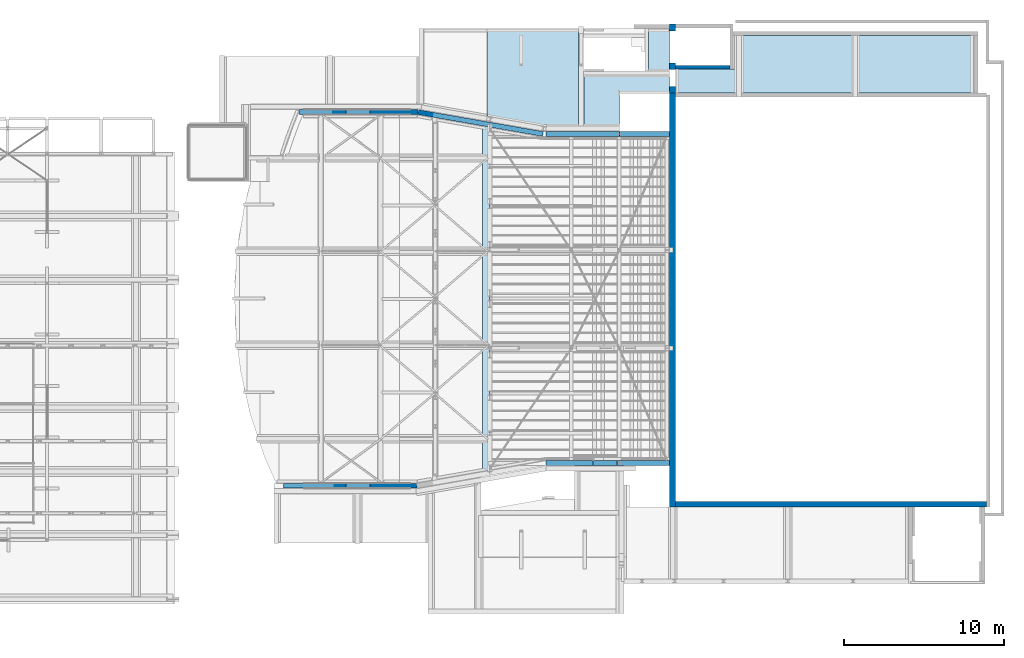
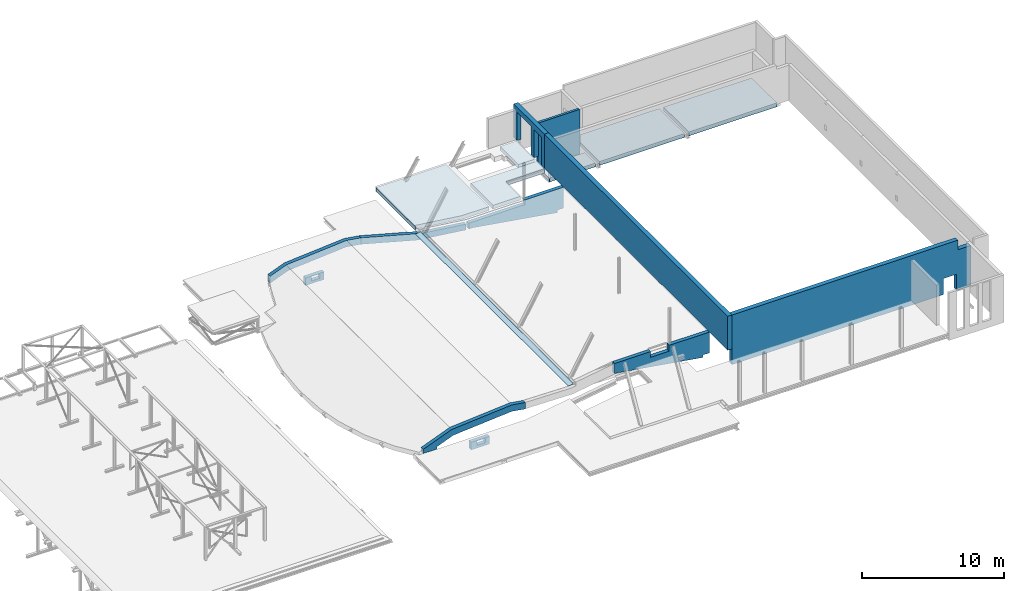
# One storey, part 42 of 50: 11 walls, 3 slabs, 23 openings.
"""IFC2X3 building model written with IfcOpenShell, lengths in millimetres."""

from ifc_helpers import new_model, entity, si_unit, converted_unit, derived_unit, direction, frame, frame_2d, origin, origin_2d_with_axis, place, context, subcontext, project, spatial, polyline, rectangle, outline, extrude, clip, halfspace, bounded_halfspace, faceted_brep, material, layer, layer_set, layer_usage, type_object, element, save


model = new_model("IFC2X3")

# Units and contexts
model_context = context("Model", 3, precision=0.01, world=origin(), true_north=direction((6.12303176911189e-17, 1.0)))
body_context = subcontext(model_context, "Body", "Model", "MODEL_VIEW")
ifc_project = project(units=[si_unit("LENGTHUNIT", "METRE", prefix="MILLI"), si_unit("AREAUNIT", "SQUARE_METRE", prefix="MILLI"), si_unit("VOLUMEUNIT", "CUBIC_METRE"), converted_unit("PLANEANGLEUNIT", "DEGREE", entity("IfcRatioMeasure", 0.0174532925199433), si_unit("PLANEANGLEUNIT", "RADIAN"), dimensions=[0, 0, 0, 0, 0, 0, 0]), si_unit("MASSUNIT", "GRAM", prefix="KILO"), derived_unit("MASSDENSITYUNIT", [(si_unit("MASSUNIT", "GRAM", prefix="KILO"), 1), (si_unit("LENGTHUNIT", "METRE"), -3)]), derived_unit("MOMENTOFINERTIAUNIT", [(si_unit("LENGTHUNIT", "METRE"), 4)]), si_unit("TIMEUNIT", "SECOND"), si_unit("FREQUENCYUNIT", "HERTZ"), si_unit("THERMODYNAMICTEMPERATUREUNIT", "DEGREE_CELSIUS"), derived_unit("THERMALTRANSMITTANCEUNIT", [(si_unit("MASSUNIT", "GRAM", prefix="KILO"), 1), (si_unit("THERMODYNAMICTEMPERATUREUNIT", "KELVIN"), -1), (si_unit("TIMEUNIT", "SECOND"), -3)]), derived_unit("VOLUMETRICFLOWRATEUNIT", [(si_unit("LENGTHUNIT", "METRE"), 3), (si_unit("TIMEUNIT", "SECOND"), -1)]), si_unit("ELECTRICCURRENTUNIT", "AMPERE"), si_unit("ELECTRICVOLTAGEUNIT", "VOLT"), si_unit("POWERUNIT", "WATT"), si_unit("FORCEUNIT", "NEWTON", prefix="KILO"), si_unit("ILLUMINANCEUNIT", "LUX"), si_unit("LUMINOUSFLUXUNIT", "LUMEN"), si_unit("LUMINOUSINTENSITYUNIT", "CANDELA"), derived_unit("USERDEFINED", [(si_unit("MASSUNIT", "GRAM", prefix="KILO"), -1), (si_unit("LENGTHUNIT", "METRE"), -2), (si_unit("TIMEUNIT", "SECOND"), 3), (si_unit("LUMINOUSFLUXUNIT", "LUMEN"), 1)]), derived_unit("LINEARVELOCITYUNIT", [(si_unit("LENGTHUNIT", "METRE"), 1), (si_unit("TIMEUNIT", "SECOND"), -1)]), si_unit("PRESSUREUNIT", "PASCAL"), derived_unit("USERDEFINED", [(si_unit("LENGTHUNIT", "METRE"), -2), (si_unit("MASSUNIT", "GRAM", prefix="KILO"), 1), (si_unit("TIMEUNIT", "SECOND"), -2)]), derived_unit("LINEARFORCEUNIT", [(si_unit("MASSUNIT", "GRAM", prefix="KILO"), 1), (si_unit("LENGTHUNIT", "METRE"), 1), (si_unit("TIMEUNIT", "SECOND"), -2), (si_unit("LENGTHUNIT", "METRE"), -1)]), derived_unit("PLANARFORCEUNIT", [(si_unit("MASSUNIT", "GRAM", prefix="KILO"), 1), (si_unit("LENGTHUNIT", "METRE"), 1), (si_unit("TIMEUNIT", "SECOND"), -2), (si_unit("LENGTHUNIT", "METRE"), -2)])], contexts=[model_context])

# Site, building, storey
site_placement = place(None, origin())
site = spatial("IfcSite", under=ifc_project, at=site_placement, Name="Theater aan de Parade", CompositionType="ELEMENT")
building_placement = place(site_placement, origin())
building = spatial("IfcBuilding", under=site, at=building_placement, Name="Theater aan de Parade", CompositionType="ELEMENT")
storey_placement = place(building_placement, frame((0.0, 0.0, 15820.0)))
storey = spatial("IfcBuildingStorey", under=building, at=storey_placement, Name="04 vierde verdieping", CompositionType="ELEMENT", Elevation=15820.0)

# Slab, openings
ifc_material_1 = material(Name="00_PBT_MAT_systeemvloer")
ifc_layer_1 = layer(ifc_material_1, 320.0)
ifc_layer_set_1 = layer_set([ifc_layer_1], Name="Floor:28_PBT_FL_kanaalplaat_d=320")
ifc_layer_usage_1 = layer_usage(ifc_layer_set_1, "AXIS3", "POSITIVE", 0.0)
slab_type_1 = type_object("IfcSlabType", Name="Floor:28_PBT_FL_kanaalplaat_d=320", PredefinedType="FLOOR", material=ifc_layer_set_1)
slab_1_placement = place(storey_placement, frame((67756.256100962, 45260.0, 225.0)))
slab_1 = element("IfcSlab", 1, at=slab_1_placement, inside=storey, type_object=slab_type_1, material=ifc_layer_usage_1, Name="Floor:28_PBT_FL_kanaalplaat_d=320", ObjectType="Floor:28_PBT_FL_kanaalplaat_d=320", PredefinedType="FLOOR", context=body_context, shape_type="SweptSolid", body=[
    extrude(outline(polyline([(-9249.37194951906, -1781.0), (9249.37194951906, -1781.0), (9249.37194951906, -279.127659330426), (5324.21892905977, -279.127659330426), (5324.21892905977, 1781.0), (-9249.37194951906, 1781.0), (-9249.37194951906, -1781.0)])), frame((9249.37194951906, 1781.0, 320.0), z_axis=(0.0, 0.0, -1.0), x_axis=(-1.0, 0.0, 0.0)), (0.0, 0.0, 1.0), 320.000000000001),
])
opening_1_placement = place(slab_1_placement, origin())
element("IfcOpeningElement", 2, at=opening_1_placement, cuts=slab_1, ObjectType="Opening", context=body_context, shape_type="SweptSolid", body=[
    extrude(rectangle(XDim=4061.99999999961, YDim=339.999999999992, at=origin_2d_with_axis()), frame((11163.743899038, 1781.0, -5.0), z_axis=(0.0, 0.0, 1.0), x_axis=(0.0, 1.0, 0.0)), (0.0, 0.0, 1.0), 325.0),
])
opening_2_placement = place(slab_1_placement, origin())
element("IfcOpeningElement", 3, at=opening_2_placement, cuts=slab_1, ObjectType="Opening", context=body_context, shape_type="SweptSolid", body=[
    extrude(rectangle(XDim=339.999999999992, YDim=4061.9999999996, at=origin_2d_with_axis()), frame((3925.15302045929, 1781.0, -5.0)), (0.0, 0.0, 1.0), 325.0),
])

ifc_layer_usage_2 = layer_usage(ifc_layer_set_1, "AXIS3", "POSITIVE", 0.0)
slab_type_2 = type_object("IfcSlabType", Name="Floor:28_PBT_FL_kanaalplaat_d=320", PredefinedType="FLOOR", material=ifc_layer_set_1)
slab_2_placement = place(storey_placement, frame((55957.6822339, 43205.0, 1170.0)))
slab_2 = element("IfcSlab", 4, at=slab_2_placement, inside=storey, type_object=slab_type_2, material=ifc_layer_usage_2, Name="Floor:28_PBT_FL_kanaalplaat_d=320", ObjectType="Floor:28_PBT_FL_kanaalplaat_d=320", PredefinedType="FLOOR", context=body_context, shape_type="SweptSolid", body=[
    extrude(outline(polyline([(-216.913088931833, 3008.28224240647), (-216.913088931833, 283.580874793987), (-4256.91308496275, 283.580874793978), (-4256.91308496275, 3008.28224240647), (-5699.28693353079, 3008.28224240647), (-5699.28693353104, -973.599117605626), (-2559.08686895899, -973.599117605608), (-2559.08686895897, -3178.28224240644), (2202.42875541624, -3178.28224240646), (5699.28693353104, -2566.33206123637), (5699.28693353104, 3008.28224240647), (-216.913088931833, 3008.28224240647)])), frame((5699.28693353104, 3008.28224240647, 320.0), z_axis=(0.0, 0.0, -1.0), x_axis=(-1.0, 0.0, 0.0)), (0.0, 0.0, 1.0), 320.000000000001),
])
opening_3_placement = place(slab_2_placement, origin())
element("IfcOpeningElement", 5, at=opening_3_placement, cuts=slab_2, ObjectType="Opening", context=body_context, shape_type="SweptSolid", body=[
    extrude(rectangle(XDim=6201.99799087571, YDim=340.000000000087, at=origin_2d_with_axis()), frame((5876.2000224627, 3080.99899543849, 0.0), z_axis=(0.0, 0.0, 1.0), x_axis=(0.0, 1.0, 0.0)), (0.0, 0.0, 1.0), 320.000000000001),
])
opening_4_placement = place(slab_2_placement, origin())
element("IfcOpeningElement", 6, at=opening_4_placement, cuts=slab_2, ObjectType="Opening", context=body_context, shape_type="SweptSolid", body=[
    extrude(rectangle(XDim=260.000000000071, YDim=2635.13487367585, at=origin_2d_with_axis()), frame((9956.20001849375, 4739.43055403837, 0.0)), (0.0, 0.0, 1.0), 320.000000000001),
])
opening_5_placement = place(slab_2_placement, frame((6026.2000224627, 3036.86311720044, -5.0)))
element("IfcOpeningElement", 7, at=opening_5_placement, cuts=slab_2, ObjectType="Opening", context=body_context, shape_type="Brep", body=[
    faceted_brep([(100.0, 0.0, 2.0), (100.0, 105.0, 2.0), (0.0, 105.0, 2.0), (0.0, 0.0, 2.0), (0.0, 0.0, 1.0), (0.0, 105.0, 1.0), (100.0, 0.0, 1.0), (100.0, 105.0, 1.0), (4872.37384459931, 405.0, 2.0), (5372.37384459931, 405.0, 2.0), (5372.37384459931, 510.0, 2.0), (4872.37384459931, 510.0, 2.0), (4872.37384459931, 510.0, 1.0), (5372.37384459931, 510.0, 1.0), (4872.37384459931, 405.0, 1.0), (5372.37384459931, 405.0, 1.0), (4972.3738445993, 0.0, 2.0), (5372.37384459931, 0.0, 2.0), (4972.3738445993, 105.0, 2.0), (5372.37384459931, 105.0, 2.0), (4972.3738445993, 105.0, 1.0), (5372.37384459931, 105.0, 1.0), (5372.37384459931, 0.0, 1.0), (4972.3738445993, 0.0, 1.0), (5372.37384459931, 105.0, 0.0), (5372.37384459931, 405.0, 0.0), (5372.37384459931, 405.0, 325.0), (5372.37384459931, 105.0, 325.0), (0.0, 405.0, 0.0), (0.0, 105.0, 0.0), (0.0, 405.0, 325.0), (0.0, 105.0, 325.0)], [[[0, 1, 2]], [[2, 3, 0]], [[4, 5, 6]], [[7, 6, 5]], [[0, 3, 4]], [[4, 6, 0]], [[1, 0, 6]], [[6, 7, 1]], [[8, 9, 10]], [[10, 11, 8]], [[12, 13, 14]], [[15, 14, 13]], [[11, 10, 13]], [[13, 12, 11]], [[8, 11, 12]], [[12, 14, 8]], [[16, 17, 18]], [[19, 18, 17]], [[20, 21, 22]], [[22, 23, 20]], [[16, 18, 20]], [[20, 23, 16]], [[17, 16, 23]], [[23, 22, 17]], [[17, 22, 21]], [[15, 21, 24]], [[24, 25, 15]], [[10, 15, 13]], [[15, 9, 21]], [[26, 27, 19]], [[21, 9, 19]], [[9, 15, 10]], [[19, 9, 26]], [[19, 17, 21]], [[28, 5, 2]], [[5, 28, 29]], [[4, 3, 5]], [[2, 30, 28]], [[30, 2, 31]], [[3, 2, 5]], [[15, 25, 14]], [[26, 9, 8]], [[14, 28, 8]], [[28, 14, 25]], [[8, 30, 26]], [[30, 8, 28]], [[27, 26, 31]], [[30, 31, 26]], [[27, 18, 19]], [[18, 27, 31]], [[24, 21, 20]], [[24, 20, 29]], [[18, 7, 20]], [[1, 31, 2]], [[31, 1, 18]], [[7, 5, 29]], [[7, 29, 20]], [[1, 7, 18]], [[25, 24, 28]], [[29, 28, 24]]]),
])
opening_6_placement = place(slab_2_placement, origin())
element("IfcOpeningElement", 8, at=opening_6_placement, cuts=slab_2, ObjectType="Opening", context=body_context, shape_type="SweptSolid", body=[
    extrude(rectangle(XDim=340.000000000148, YDim=4851.66434997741, at=origin_2d_with_axis()), frame((5832.54162750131, -170.0, -5.0), z_axis=(0.0, 0.0, 1.0), x_axis=(0.0, 1.0, 0.0)), (0.0, 0.0, 1.0), 325.0),
])
opening_7_placement = place(slab_2_placement, origin())
element("IfcOpeningElement", 9, at=opening_7_placement, cuts=slab_2, ObjectType="Opening", context=body_context, shape_type="SweptSolid", body=[
    extrude(rectangle(XDim=340.000000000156, YDim=8227.18093451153, at=origin_2d_with_axis()), frame((-360.93707934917, 510.190155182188, -1160.0), z_axis=(0.0, 0.0, 1.0), x_axis=(0.172380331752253, 0.985030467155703, 0.0)), (0.0, 0.0, 1.0), 325.0),
])
opening_8_placement = place(slab_2_placement, origin())
element("IfcOpeningElement", 10, at=opening_8_placement, cuts=slab_2, ObjectType="Opening", context=body_context, shape_type="SweptSolid", body=[
    extrude(rectangle(XDim=340.000000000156, YDim=3747.16821801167, at=origin_2d_with_axis()), frame((1845.53743014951, 124.057116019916, -5.0), z_axis=(0.0, 0.0, 1.0), x_axis=(0.172380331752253, 0.985030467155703, 0.0)), (0.0, 0.0, 1.0), 325.0),
])

# Slab
ifc_material_2 = material(Name="00_PBT_MAT_beton t.p.g._C30/37")
slab_type_3 = type_object("IfcSlabType", Name="Floor:28_PBT_FL_druklaag_d=80_C30/37", PredefinedType="FLOOR")
slab_3_placement = place(storey_placement, origin())
element("IfcSlab", 11, at=slab_3_placement, inside=storey, type_object=slab_type_3, material=ifc_material_2, Name="Floor:28_PBT_FL_druklaag_d=80_C30/37", ObjectType="Floor:28_PBT_FL_druklaag_d=80_C30/37", PredefinedType="FLOOR", context=body_context, shape_type="Brep", body=[
    faceted_brep([(55684.013511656, 43207.54763546, 1171.61844253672), (56143.3747485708, 43207.54763546, 1171.61844253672), (56143.3747485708, 43127.1594189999, 1171.61844253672), (55684.013511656, 21647.4523645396, 1251.61844253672), (56143.3747485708, 21727.8405809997, 1251.61844253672), (56143.3747485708, 43207.54763546, 1251.61844253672), (55684.013511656, 43207.54763546, 1251.61844253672), (56136.3747485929, 21726.6155810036, 1179.97143420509), (56143.3747485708, 21727.8405809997, 1178.86274270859), (56143.3747485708, 43127.1594189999, 1178.8627427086), (56136.3747485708, 43128.3844189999, 1179.97143420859)], [[[0, 1, 2]], [[3, 4, 5, 6]], [[4, 3, 7, 8]], [[1, 0, 6, 5]], [[5, 4, 8, 9, 2, 1]], [[6, 10, 9, 8, 7, 3]], [[9, 10, 6, 0, 2]]]),
])

# Wall, openings
ifc_layer_2 = layer(ifc_material_2, 300.0)
ifc_layer_set_2 = layer_set([ifc_layer_2], Name="Basic Wall:28_PBT_WA_beton t.p.g._d=300_C30/37")
ifc_layer_usage_3 = layer_usage(ifc_layer_set_2, "AXIS2", "POSITIVE", -150.0)
wall_type_1 = type_object("IfcWallType", Name="Basic Wall:28_PBT_WA_beton t.p.g._d=300_C30/37", PredefinedType="STANDARD", material=ifc_layer_set_2)
wall_1_placement = place(storey_placement, frame((59654.454593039, 22190.0, -430.06302884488)))
wall_1 = element("IfcWallStandardCase", 12, at=wall_1_placement, inside=storey, type_object=wall_type_1, material=ifc_layer_usage_3, Name="Basic Wall:28_PBT_WA_beton t.p.g._d=300_C30/37", ObjectType="Basic Wall:28_PBT_WA_beton t.p.g._d=300_C30/37", context=body_context, shape_type="Clipping", body=[
    clip(clip(clip(clip(extrude(rectangle(XDim=7701.80150792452, YDim=300.000000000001, at=frame_2d((3850.90075396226, 0.0), x_axis=(-1.0, 0.0))), origin(), (0.0, 0.0, 1.0), 2000.06302884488), bounded_halfspace(frame((7201.80150792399, 150.0, 215.06302884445), z_axis=(-1.0, 0.0, 0.0), x_axis=(0.0, -1.0, 0.0)), True, frame((7201.80150792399, 150.0, 215.06302884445), z_axis=(-1.0, 0.0, 0.0), x_axis=(0.0, -1.0, 0.0)), polyline([(0.0, 0.0), (0.0, -215.06302884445), (300.0, -215.06302884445), (300.0, 0.0), (0.0, 0.0)]))), bounded_halfspace(frame((7201.80150792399, -150.0, 215.06302884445), z_axis=(0.0, 0.0, 1.0), x_axis=(0.0, -1.0, 0.0)), True, frame((7201.80150792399, -150.0, 215.06302884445), z_axis=(0.0, 0.0, 1.0), x_axis=(0.0, -1.0, 0.0)), polyline([(0.0, 0.0), (0.0, 500.0), (-300.0, 500.0), (-300.0, 0.0), (0.0, 0.0)]))), bounded_halfspace(frame((13.0260216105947, -150.0, 1124.62641733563), z_axis=(0.156434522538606, 0.0, 0.987688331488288), x_axis=(0.987688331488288, 0.0, -0.156434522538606)), True, frame((13.0260216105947, -150.0, 1124.62641733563), z_axis=(0.156434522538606, 0.0, 0.987688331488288), x_axis=(0.987688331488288, 0.0, -0.156434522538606)), polyline([(0.0, 0.0), (139.145076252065, 0.0), (139.145076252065, 300.0), (-13.1883927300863, 300.0), (-13.188392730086, 0.0), (0.0, 0.0)]))), halfspace(frame((0.0, 0.0, 1102.85932376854), z_axis=(-0.151780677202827, 0.0, -0.988414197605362), x_axis=(0.0, 1.0, 0.0)), False)),
])
opening_9_placement = place(wall_1_placement, origin())
element("IfcOpeningElement", 13, at=opening_9_placement, cuts=wall_1, Name="Basic Wall:28_PBT_WA_beton t.p.g._d=300_C30/37", ObjectType="Opening", context=body_context, shape_type="SweptSolid", body=[
    extrude(rectangle(XDim=497.027708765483, YDim=1490.0, at=frame_2d((-4.32009983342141e-12, 0.0), x_axis=(0.0, 1.0))), frame((3676.60144336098, 150.0, 1751.54917446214), z_axis=(0.0, -1.0, 0.0), x_axis=(-1.0, 0.0, 0.0)), (0.0, 0.0, 1.0), 300.0),
])
opening_10_placement = place(wall_1_placement, origin())
element("IfcOpeningElement", 14, at=opening_10_placement, cuts=wall_1, Name="Basic Wall:28_PBT_WA_beton t.p.g._d=300_C30/37", ObjectType="Opening", context=body_context, shape_type="SweptSolid", body=[
    extrude(outline(polyline([(-2694.24185969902, -14.8772095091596), (5097.83713570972, -14.8772095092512), (-2403.5952760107, 29.7544190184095), (-2694.24185969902, -14.8772095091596)])), frame((2665.28497884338, 150.0, 708.630314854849), z_axis=(0.0, -1.0, 0.0), x_axis=(0.988414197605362, 0.0, -0.151780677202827)), (0.0, 0.0, 1.0), 300.0),
])

# Wall, opening
ifc_layer_usage_4 = layer_usage(ifc_layer_set_2, "AXIS2", "NEGATIVE", 150.0)
wall_2_placement = place(storey_placement, frame((59654.454593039, 42700.0, -440.149943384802)))
wall_2 = element("IfcWallStandardCase", 15, at=wall_2_placement, inside=storey, type_object=wall_type_1, material=ifc_layer_usage_4, Name="Basic Wall:28_PBT_WA_beton t.p.g._d=300_C30/37", ObjectType="Basic Wall:28_PBT_WA_beton t.p.g._d=300_C30/37", context=body_context, shape_type="Clipping", body=[
    clip(clip(clip(clip(clip(extrude(rectangle(XDim=7701.80150792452, YDim=300.000000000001, at=frame_2d((3850.90075396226, 0.0), x_axis=(-1.0, 0.0))), origin(), (0.0, 0.0, 1.0), 2010.16795465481), bounded_halfspace(frame((4561.601443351, -150.0, 1610.1499433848), z_axis=(0.0, 0.0, -1.0), x_axis=(0.0, -1.0, 0.0)), True, frame((4561.601443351, -150.0, 1610.1499433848), z_axis=(0.0, 0.0, -1.0), x_axis=(0.0, -1.0, 0.0)), polyline([(0.0, 0.0), (0.0, 4561.60144335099), (-300.0, 4561.60144335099), (-300.0, 0.0), (0.0, 0.0)]))), bounded_halfspace(frame((4561.60144335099, 150.0, 1610.1499433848), z_axis=(1.0, 0.0, 0.0), x_axis=(0.0, 0.0, 1.0)), True, frame((4561.60144335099, 150.0, 1610.1499433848), z_axis=(1.0, 0.0, 0.0), x_axis=(0.0, 0.0, 1.0)), polyline([(0.0, 0.0), (400.01801127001, 0.0), (400.01801127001, 300.0), (0.0, 300.0), (0.0, 0.0)]))), bounded_halfspace(frame((7201.80150792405, 150.0, 225.149943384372), z_axis=(-1.0, 0.0, 0.0), x_axis=(0.0, -1.0, 0.0)), True, frame((7201.80150792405, 150.0, 225.149943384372), z_axis=(-1.0, 0.0, 0.0), x_axis=(0.0, -1.0, 0.0)), polyline([(0.0, 0.0), (0.0, -225.149943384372), (300.0, -225.14994338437), (300.0, 0.0), (0.0, 0.0)]))), bounded_halfspace(frame((7201.80150792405, -150.0, 225.149943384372), z_axis=(0.0, 0.0, 1.0), x_axis=(0.0, -1.0, 0.0)), True, frame((7201.80150792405, -150.0, 225.149943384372), z_axis=(0.0, 0.0, 1.0), x_axis=(0.0, -1.0, 0.0)), polyline([(0.0, 0.0), (0.0, 500.0), (-300.0, 500.0), (-300.0, 0.0), (0.0, 0.0)]))), halfspace(frame((0.0, 0.0, 1110.1499433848), z_axis=(-0.15278138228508, 0.0, -0.988260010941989), x_axis=(0.0, 1.0, 0.0)), False)),
])
opening_11_placement = place(wall_2_placement, origin())
element("IfcOpeningElement", 16, at=opening_11_placement, cuts=wall_2, Name="Basic Wall:28_PBT_WA_beton t.p.g._d=300_C30/37", ObjectType="Opening", context=body_context, shape_type="SweptSolid", body=[
    extrude(outline(polyline([(-2699.29434086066, -15.6960799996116), (5094.00036159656, -15.6960799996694), (-2394.70602073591, 31.3921599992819), (-2699.29434086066, -15.6960799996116)])), frame((2670.00272363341, 150.0, 713.259830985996), z_axis=(0.0, -1.0, 0.0), x_axis=(0.988260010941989, 0.0, -0.15278138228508)), (0.0, 0.0, 1.0), 300.0),
])

ifc_layer_usage_5 = layer_usage(ifc_layer_set_2, "AXIS2", "NEGATIVE", 150.0)
wall_3_placement = place(storey_placement, frame((44302.6878974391, 44060.0, 569.447157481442)))
wall_3 = element("IfcWallStandardCase", 17, at=wall_3_placement, inside=storey, type_object=wall_type_1, material=ifc_layer_usage_5, Name="Basic Wall:28_PBT_WA_beton t.p.g._d=300_C30/37", ObjectType="Basic Wall:28_PBT_WA_beton t.p.g._d=300_C30/37", context=body_context, shape_type="Clipping", body=[
    clip(clip(clip(clip(extrude(rectangle(XDim=7380.33812417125, YDim=300.000000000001, at=frame_2d((3690.16906208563, -1.13686837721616e-13), x_axis=(-1.0, 0.0))), origin(), (0.0, 0.0, 1.0), 1502.04571579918), halfspace(frame((1341.06430546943, -150.0, 1113.18313392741), z_axis=(-0.079704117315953, 0.0, 0.996818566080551), x_axis=(0.0, 1.0, 0.0)), False)), halfspace(frame((6204.36941839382, -150.0, 1502.04571579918), z_axis=(0.15643452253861, 0.0, 0.987688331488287), x_axis=(0.0, 1.0, 0.0)), False)), halfspace(frame((0.0, -150.0, 590.324288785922), z_axis=(-0.363251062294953, 0.0, 0.931691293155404), x_axis=(0.0, 1.0, 0.0)), False)), halfspace(frame((7380.33812417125, 0.0, 758.934676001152), z_axis=(0.10229254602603, 0.0, -0.994754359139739), x_axis=(0.0, -1.0, 0.0)), False)),
])
opening_12_placement = place(wall_3_placement, origin())
element("IfcOpeningElement", 18, at=opening_12_placement, cuts=wall_3, Name="Basic Wall:28_PBT_WA_beton t.p.g._d=300_C30/37", ObjectType="Opening", context=body_context, shape_type="SweptSolid", body=[
    extrude(outline(polyline([(-3548.92752798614, -753.66528404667), (-2336.63383816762, -753.66528404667), (2263.73863013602, 356.865257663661), (3621.82273601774, 1150.46531042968), (-3548.92752798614, -753.66528404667)])), frame((3757.204546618, 150.0, 569.723052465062), z_axis=(0.0, -1.0, 0.0), x_axis=(-0.987688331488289, 0.0, 0.156434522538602)), (0.0, 0.0, 1.0), 300.0),
])

ifc_layer_usage_6 = layer_usage(ifc_layer_set_2, "AXIS2", "NEGATIVE", 150.0)
wall_4_placement = place(storey_placement, frame((51683.0260216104, 44060.0, 670.0), z_axis=(0.0, 0.0, 1.0), x_axis=(0.985030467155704, -0.17238033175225, 0.0)))
wall_4 = element("IfcWallStandardCase", 19, at=wall_4_placement, inside=storey, type_object=wall_type_1, material=ifc_layer_usage_6, Name="Basic Wall:28_PBT_WA_beton t.p.g._d=300_C30/37", ObjectType="Basic Wall:28_PBT_WA_beton t.p.g._d=300_C30/37", context=body_context, shape_type="Clipping", body=[
    clip(clip(clip(extrude(rectangle(XDim=7889.53116736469, YDim=300.0, at=frame_2d((3944.76558368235, -6.25277607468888e-13), x_axis=(-1.0, 0.0))), origin(), (0.0, 0.0, 1.0), 1215.28004439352), halfspace(frame((7889.5311673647, -150.0, 0.0), z_axis=(0.0, 0.0, -1.0), x_axis=(0.0, 1.0, 0.0)), False)), halfspace(frame((4257.05028814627, -150.0, 0.0), z_axis=(-0.15414877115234, 0.0, -0.988047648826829), x_axis=(0.0, 1.0, 0.0)), False)), halfspace(frame((7889.5311673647, 0.0, 500.0), z_axis=(0.0902915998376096, 0.0, 0.995915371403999), x_axis=(0.0, 1.0, 0.0)), False)),
])
opening_13_placement = place(wall_4_placement, origin())
element("IfcOpeningElement", 20, at=opening_13_placement, cuts=wall_4, Name="Basic Wall:28_PBT_WA_beton t.p.g._d=300_C30/37", ObjectType="Opening", context=body_context, shape_type="SweptSolid", body=[
    extrude(outline(polyline([(-3737.72989211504, -99.4652086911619), (4184.1592501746, -99.4652086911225), (-446.429358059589, 198.930417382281), (-3737.72989211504, -99.4652086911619)])), frame((4158.08764083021, 150.0, 738.426681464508), z_axis=(0.0, -1.0, 0.0), x_axis=(-0.995915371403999, 0.0, 0.0902915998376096)), (0.0, 0.0, 1.0), 300.0),
])

ifc_layer_usage_7 = layer_usage(ifc_layer_set_2, "AXIS2", "POSITIVE", -150.0)
wall_5_placement = place(storey_placement, frame((43301.7932330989, 20780.0, 415.0)))
wall_5 = element("IfcWallStandardCase", 21, at=wall_5_placement, inside=storey, type_object=wall_type_1, material=ifc_layer_usage_7, Name="Basic Wall:28_PBT_WA_beton t.p.g._d=300_C30/37", ObjectType="Basic Wall:28_PBT_WA_beton t.p.g._d=300_C30/37", context=body_context, shape_type="Clipping", body=[
    clip(clip(clip(clip(extrude(rectangle(XDim=8295.51850279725, YDim=300.000000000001, at=frame_2d((4147.75925139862, -7.105427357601e-14), x_axis=(-1.0, 0.0))), origin(), (0.0, 0.0, 1.0), 1656.56806113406), halfspace(frame((7205.26408273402, -150.0, 1656.56806113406), z_axis=(0.156434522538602, 0.0, 0.987688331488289), x_axis=(0.0, 1.0, 0.0)), False)), halfspace(frame((2315.58886652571, -150.0, 1257.4242110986), z_axis=(-0.0813593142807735, 0.0, 0.996684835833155), x_axis=(0.0, 1.0, 0.0)), False)), halfspace(frame((0.0, -150.0, 354.614319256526), z_axis=(-0.363251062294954, 0.0, 0.931691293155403), x_axis=(0.0, 1.0, 0.0)), False)), halfspace(frame((1026.20898657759, -150.0, 0.0), z_axis=(0.0, 0.0, -1.0), x_axis=(0.0, 1.0, 0.0)), False)),
])
opening_14_placement = place(wall_5_placement, origin())
element("IfcOpeningElement", 22, at=opening_14_placement, cuts=wall_5, Name="Basic Wall:28_PBT_WA_beton t.p.g._d=300_C30/37", ObjectType="Opening", context=body_context, shape_type="SweptSolid", body=[
    extrude(outline(polyline([(-3618.62667953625, -491.493925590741), (3551.10320498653, -491.493925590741), (3551.10320498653, 435.539038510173), (2439.44623973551, 611.608271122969), (-2304.39929063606, 224.118057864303), (-3618.62667953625, -288.277516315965), (-3618.62667953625, -491.493925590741)])), frame((4744.41529781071, 150.0, 491.493925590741), z_axis=(0.0, -1.0, 0.0), x_axis=(1.0, 0.0, 0.0)), (0.0, 0.0, 1.0), 300.0),
])

ifc_layer_usage_8 = layer_usage(ifc_layer_set_2, "AXIS2", "NEGATIVE", 150.0)
wall_6_placement = place(storey_placement, frame((47184.689452, 44060.0, -640.0)))
wall_6 = element("IfcWallStandardCase", 23, at=wall_6_placement, inside=storey, type_object=wall_type_1, material=ifc_layer_usage_8, Name="Basic Wall:28_PBT_WA_beton t.p.g._d=300_C30/37", ObjectType="Basic Wall:28_PBT_WA_beton t.p.g._d=300_C30/37", context=body_context, shape_type="SweptSolid", body=[
    extrude(rectangle(XDim=1499.99999999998, YDim=300.000000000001, at=frame_2d((749.99999999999, 0.0), x_axis=(-1.0, 0.0))), origin(), (0.0, 0.0, 1.0), 655.000000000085),
])
opening_15_placement = place(wall_6_placement, origin())
element("IfcOpeningElement", 24, at=opening_15_placement, cuts=wall_6, Name="Basic Wall:28_PBT_WA_beton t.p.g._d=300_C30/37", ObjectType="Opening", context=body_context, shape_type="SweptSolid", body=[
    extrude(rectangle(XDim=380.0, YDim=680.000000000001, at=origin_2d_with_axis()), frame((826.024469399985, 150.0, 415.0), z_axis=(0.0, 1.0, 0.0), x_axis=(0.0, 0.0, -1.0)), (0.0, 0.0, -1.0), 300.0),
])

ifc_layer_usage_9 = layer_usage(ifc_layer_set_2, "AXIS2", "NEGATIVE", 150.0)
wall_7_placement = place(storey_placement, frame((47184.689452, 20780.0, -640.0)))
wall_7 = element("IfcWallStandardCase", 25, at=wall_7_placement, inside=storey, type_object=wall_type_1, material=ifc_layer_usage_9, Name="Basic Wall:28_PBT_WA_beton t.p.g._d=300_C30/37", ObjectType="Basic Wall:28_PBT_WA_beton t.p.g._d=300_C30/37", context=body_context, shape_type="SweptSolid", body=[
    extrude(rectangle(XDim=1499.99999999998, YDim=300.000000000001, at=frame_2d((749.99999999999, 0.0), x_axis=(-1.0, 0.0))), origin(), (0.0, 0.0, 1.0), 655.000000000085),
])
opening_16_placement = place(wall_7_placement, origin())
element("IfcOpeningElement", 26, at=opening_16_placement, cuts=wall_7, Name="Basic Wall:28_PBT_WA_beton t.p.g._d=300_C30/37", ObjectType="Opening", context=body_context, shape_type="SweptSolid", body=[
    extrude(rectangle(XDim=380.0, YDim=680.000000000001, at=origin_2d_with_axis()), frame((826.024469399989, 150.0, 415.0), z_axis=(0.0, -1.0, 0.0), x_axis=(0.0, 0.0, -1.0)), (0.0, 0.0, 1.0), 300.0),
])

# Wall
ifc_layer_3 = layer(ifc_material_2, 200.0)
ifc_layer_set_3 = layer_set([ifc_layer_3], Name="Basic Wall:28_PBT_WA_beton t.p.g._d=200_C30/37")
ifc_layer_usage_10 = layer_usage(ifc_layer_set_3, "AXIS2", "POSITIVE", -100.0)
wall_type_2 = type_object("IfcWallType", Name="Basic Wall:28_PBT_WA_beton t.p.g._d=200_C30/37", PredefinedType="STANDARD", material=ifc_layer_set_3)
wall_8_placement = place(storey_placement, frame((71107.0, 46861.8723406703, 535.0), z_axis=(0.0, 0.0, 1.0), x_axis=(-1.0, 0.0, 0.0)))
element("IfcWallStandardCase", 27, at=wall_8_placement, inside=storey, type_object=wall_type_2, material=ifc_layer_usage_10, Name="Basic Wall:28_PBT_WA_beton t.p.g._d=200_C30/37", ObjectType="Basic Wall:28_PBT_WA_beton t.p.g._d=200_C30/37", context=body_context, shape_type="SweptSolid", body=[
    extrude(rectangle(XDim=3400.74389903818, YDim=200.000000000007, at=frame_2d((1700.37194951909, -1.61293201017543e-12), x_axis=(-1.0, 0.0))), origin(), (0.0, 0.0, 1.0), 3854.99999999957),
])

# Wall, openings
ifc_layer_4 = layer(ifc_material_2, 350.0)
ifc_layer_set_4 = layer_set([ifc_layer_4], Name="Basic Wall:28_PBT_WA_beton t.p.g._d=350_C30/37")
ifc_layer_usage_11 = layer_usage(ifc_layer_set_4, "AXIS2", "NEGATIVE", 175.0)
wall_type_3 = type_object("IfcWallType", Name="Basic Wall:28_PBT_WA_beton t.p.g._d=350_C30/37", PredefinedType="STANDARD", material=ifc_layer_set_4)
wall_9_placement = place(storey_placement, frame((67531.2561009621, 45260.0, 1570.0), z_axis=(0.0, 0.0, 1.0), x_axis=(0.0, 1.0, 0.0)))
wall_9 = element("IfcWallStandardCase", 28, at=wall_9_placement, inside=storey, type_object=wall_type_3, material=ifc_layer_usage_11, Name="Basic Wall:28_PBT_WA_beton t.p.g._d=350_C30/37", ObjectType="Basic Wall:28_PBT_WA_beton t.p.g._d=350_C30/37", context=body_context, shape_type="SweptSolid", body=[
    extrude(rectangle(XDim=4301.99999999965, YDim=350.000000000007, at=frame_2d((2150.99999999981, 2.72848410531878e-12), x_axis=(-1.0, 0.0))), origin(), (0.0, 0.0, 1.0), 2909.99999999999),
])
opening_17_placement = place(wall_9_placement, origin())
element("IfcOpeningElement", 29, at=opening_17_placement, cuts=wall_9, Name="Basic Wall:28_PBT_WA_beton t.p.g._d=350_C30/37", ObjectType="Opening", context=body_context, shape_type="SweptSolid", body=[
    extrude(rectangle(XDim=2449.99999999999, YDim=1980.0, at=frame_2d((0.0, -2.1600499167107e-12), x_axis=(0.0, 1.0))), frame((2866.87234067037, -175.0, 1225.0), z_axis=(0.0, 1.0, 0.0), x_axis=(1.0, 0.0, 0.0)), (0.0, 0.0, 1.0), 350.000000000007),
])
opening_18_placement = place(wall_9_placement, origin())
element("IfcOpeningElement", 30, at=opening_18_placement, cuts=wall_9, Name="Basic Wall:28_PBT_WA_beton t.p.g._d=350_C30/37", ObjectType="Opening", context=body_context, shape_type="SweptSolid", body=[
    extrude(rectangle(XDim=2419.99999999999, YDim=1054.0, at=frame_2d((0.0, 1.02318153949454e-12), x_axis=(0.0, 1.0))), frame((917.0, -175.0, 1210.0), z_axis=(0.0, 1.0, 0.0), x_axis=(1.0, 0.0, 0.0)), (0.0, 0.0, 1.0), 350.000000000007),
])
opening_19_placement = place(wall_9_placement, origin())
element("IfcOpeningElement", 31, at=opening_19_placement, cuts=wall_9, Name="Basic Wall:28_PBT_WA_beton t.p.g._d=350_C30/37", ObjectType="Opening", context=body_context, shape_type="SweptSolid", body=[
    extrude(rectangle(XDim=2459.99999999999, YDim=249.999999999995, at=frame_2d((-4.33431068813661e-12, 2.1600499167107e-12), x_axis=(0.0, 1.0))), frame((-125.0, -1209.0, 4050.0), z_axis=(0.0, 1.0, 0.0), x_axis=(1.0, 0.0, 0.0)), (0.0, 0.0, 1.0), 1034.00000000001),
])

ifc_layer_usage_12 = layer_usage(ifc_layer_set_4, "AXIS2", "NEGATIVE", 175.0)
wall_10_placement = place(storey_placement, frame((67531.2561009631, 19460.0002435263, 1570.0), z_axis=(0.0, 0.0, 1.0), x_axis=(0.0, 1.0, 0.0)))
wall_10 = element("IfcWallStandardCase", 32, at=wall_10_placement, inside=storey, type_object=wall_type_3, material=ifc_layer_usage_12, Name="Basic Wall:28_PBT_WA_beton t.p.g._d=350_C30/37", ObjectType="Basic Wall:28_PBT_WA_beton t.p.g._d=350_C30/37", context=body_context, shape_type="Clipping", body=[
    clip(extrude(rectangle(XDim=25799.9997564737, YDim=350.000000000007, at=frame_2d((12899.9998782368, 0.0), x_axis=(-1.0, 0.0))), origin(), (0.0, 0.0, 1.0), 2909.99999999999), bounded_halfspace(frame((25799.9997564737, -175.0, 0.0), z_axis=(0.0, 0.0, 1.0), x_axis=(0.0, 1.0, 0.0)), True, frame((25799.9997564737, -175.0, 0.0), z_axis=(0.0, 0.0, 1.0), x_axis=(0.0, 1.0, 0.0)), polyline([(0.0, 0.0), (350.0, 0.0), (350.0, 25799.9997564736), (1.91573690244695e-09, 25799.9997564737), (0.0, 0.0)]))),
])
opening_20_placement = place(wall_10_placement, origin())
element("IfcOpeningElement", 33, at=opening_20_placement, cuts=wall_10, Name="Basic Wall:28_PBT_WA_beton t.p.g._d=350_C30/37", ObjectType="Opening", context=body_context, shape_type="SweptSolid", body=[
    extrude(rectangle(XDim=2459.99999999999, YDim=249.999999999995, at=frame_2d((-4.33431068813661e-12, 2.1600499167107e-12), x_axis=(0.0, 1.0))), frame((25674.9997564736, -1209.0, 4050.0), z_axis=(0.0, 1.0, 0.0), x_axis=(1.0, 0.0, 0.0)), (0.0, 0.0, 1.0), 1034.00000000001),
])
opening_21_placement = place(wall_10_placement, origin())
element("IfcOpeningElement", 34, at=opening_21_placement, cuts=wall_10, Name="Basic Wall:28_PBT_WA_beton t.p.g._d=350_C30/37", ObjectType="Opening", context=body_context, shape_type="SweptSolid", body=[
    extrude(rectangle(XDim=2449.99999999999, YDim=1980.0, at=frame_2d((0.0, -2.1600499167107e-12), x_axis=(0.0, 1.0))), frame((28666.8720971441, -175.0, 1225.0), z_axis=(0.0, 1.0, 0.0), x_axis=(1.0, 0.0, 0.0)), (0.0, 0.0, 1.0), 350.000000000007),
])
opening_22_placement = place(wall_10_placement, origin())
element("IfcOpeningElement", 35, at=opening_22_placement, cuts=wall_10, Name="Basic Wall:28_PBT_WA_beton t.p.g._d=350_C30/37", ObjectType="Opening", context=body_context, shape_type="SweptSolid", body=[
    extrude(rectangle(XDim=2419.99999999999, YDim=1054.0, at=frame_2d((0.0, 1.02318153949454e-12), x_axis=(0.0, 1.0))), frame((26716.9997564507, -175.0, 1210.0), z_axis=(0.0, 1.0, 0.0), x_axis=(1.0, 0.0, 0.0)), (0.0, 0.0, 1.0), 350.000000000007),
])

# Wall, opening
ifc_layer_usage_13 = layer_usage(ifc_layer_set_4, "AXIS2", "POSITIVE", -175.0)
wall_11_placement = place(storey_placement, frame((67706.256100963, 19635.0002435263, 215.0)))
wall_11 = element("IfcWallStandardCase", 36, at=wall_11_placement, inside=storey, type_object=wall_type_3, material=ifc_layer_usage_13, Name="Basic Wall:28_PBT_WA_beton t.p.g._d=350_C30/37", ObjectType="Basic Wall:28_PBT_WA_beton t.p.g._d=350_C30/37", context=body_context, shape_type="Clipping", body=[
    clip(clip(clip(extrude(rectangle(XDim=19389.743899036, YDim=349.999999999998, at=frame_2d((9694.87194951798, -4.40536496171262e-13), x_axis=(-1.0, 0.0))), origin(), (0.0, 0.0, 1.0), 4265.0), bounded_halfspace(frame((18348.7438990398, -175.0, 3445.0), z_axis=(0.0, 0.0, -1.0), x_axis=(-1.0, 0.0, 0.0)), True, frame((18348.7438990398, -175.0, 3445.0)), polyline([(0.0, 0.0), (1041.0, 0.0), (1041.0, 350.0), (0.0, 350.0), (0.0, 0.0)]))), bounded_halfspace(frame((18348.7438990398, 175.0, 4265.0), z_axis=(0.0, 0.0, -1.0), x_axis=(0.0, 1.0, 0.0)), True, frame((18348.7438990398, 175.0, 4265.0)), polyline([(0.0, 0.0), (-18348.7438990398, 0.0), (-18348.7438990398, -350.0), (-11488.1403296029, -350.0), (-7476.14040315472, -350.0), (0.0, -350.0), (0.0, 0.0)]))), bounded_halfspace(frame((18348.7438990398, -175.0, 3445.0), z_axis=(0.0, 0.0, -1.0), x_axis=(-1.0, 0.0, 0.0)), True, frame((18348.7438990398, -175.0, 3445.0)), polyline([(0.0, 0.0), (1041.0, 0.0), (1041.0, 350.0), (0.0, 350.0), (0.0, 0.0)]))),
])
opening_23_placement = place(wall_11_placement, origin())
element("IfcOpeningElement", 37, at=opening_23_placement, cuts=wall_11, Name="Basic Wall:28_PBT_WA_beton t.p.g._d=350_C30/37", ObjectType="Opening", context=body_context, shape_type="SweptSolid", body=[
    extrude(rectangle(XDim=2419.99999999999, YDim=1054.0, at=frame_2d((0.0, -1.02318153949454e-12), x_axis=(0.0, 1.0))), frame((17711.2981917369, -175.0, 175.0), z_axis=(0.0, 1.0, 0.0), x_axis=(1.0, 0.0, 0.0)), (0.0, 0.0, 1.0), 349.999999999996),
])

save(model, "model.ifc")
